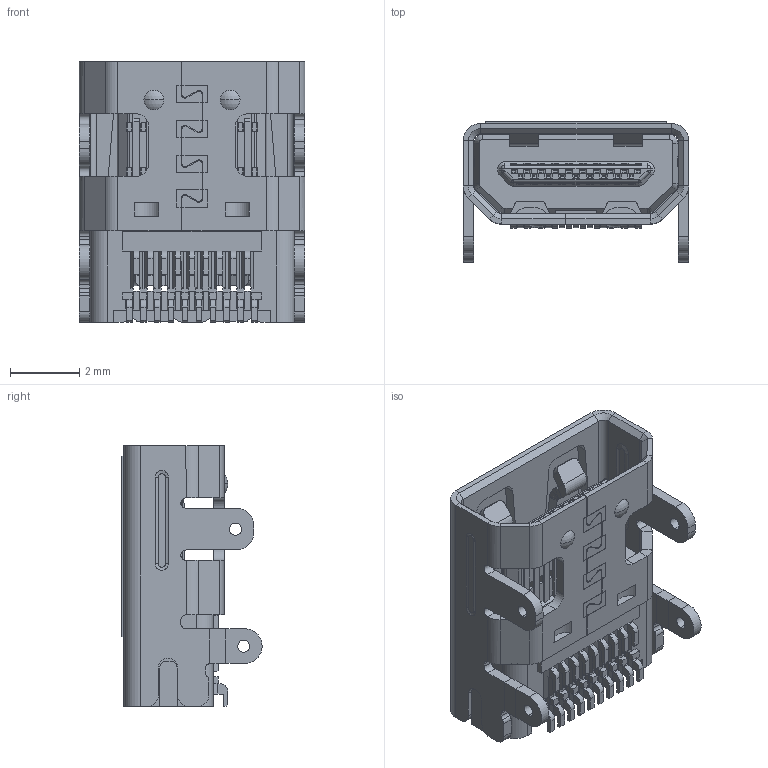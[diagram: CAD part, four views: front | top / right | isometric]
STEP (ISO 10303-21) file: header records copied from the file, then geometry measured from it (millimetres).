
FILE_DESCRIPTION (( 'STEP AP214' ), '1' );
FILE_NAME ('PRS003F04XX02_CH_1£¨1£©.STEP', '2024-07-02T03:09:58', ( '' ), ( '' ), 'SwSTEP 2.0', 'SolidWorks 2023', '' );
FILE_SCHEMA (( 'AUTOMOTIVE_DESIGN' ));
Length unit declared in the file: millimetre
Products named in the file (1): PRS003F04XX02_CH_1（1）
Bounding box: 6.5 x 4.04 x 7.5 mm (x, y, z)
Volume: 68.3 mm3; surface area: 417.8 mm2
Topology: 2 solids, 2 shells, 1737 faces, 4829 edges, 3110 vertices
Faces by surface type: plane 1378, cylinder 225, bspline 102, cone 18, sphere 14
Entity records: 58895 total; most frequent: CARTESIAN_POINT 14851, ORIENTED_EDGE 9646, DIRECTION 8329, EDGE_CURVE 4823, VECTOR 4009, LINE 4009, VERTEX_POINT 3110, AXIS2_PLACEMENT_3D 2160
